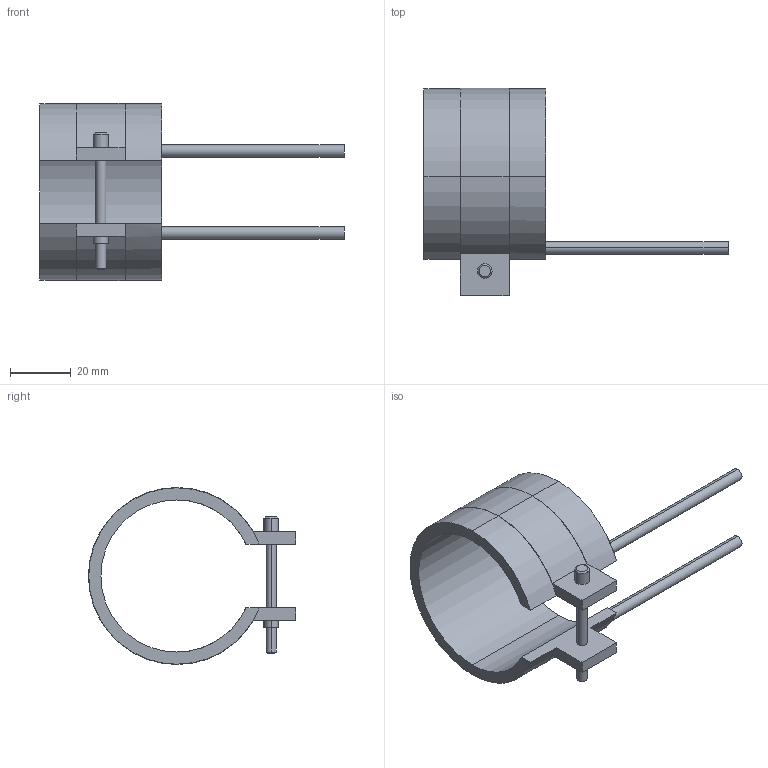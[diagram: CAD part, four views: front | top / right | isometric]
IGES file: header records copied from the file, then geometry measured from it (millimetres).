
Start section: START RECORD GO HERE.
Global section: file name: 14050040.igs; native system: DASSAULT SYSTEMES CATIA V5 R20 - www.3ds.com; preprocessor: CATIA Version 5 Release 20 ; author: Utente; organization: NB04-ASUS; date: 20210331.135259; units: millimetre
Bounding box: 100 x 68.1 x 58.2 mm (x, y, z)
Surface area: 16336.9 mm2 (no closed solid volume)
Topology: 0 solids, 0 shells, 45 faces, 232 edges, 232 vertices
Faces by surface type: revolution 28, plane 17
